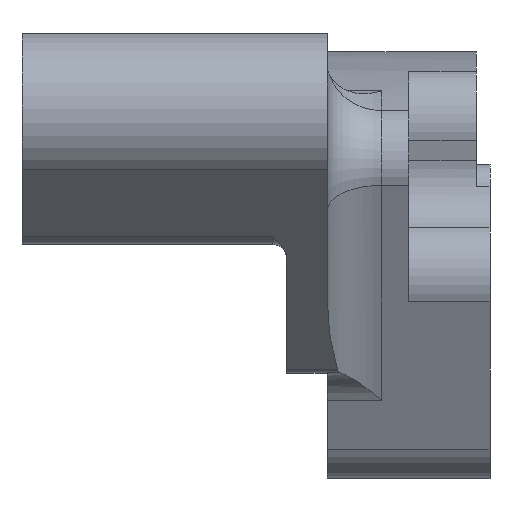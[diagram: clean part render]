
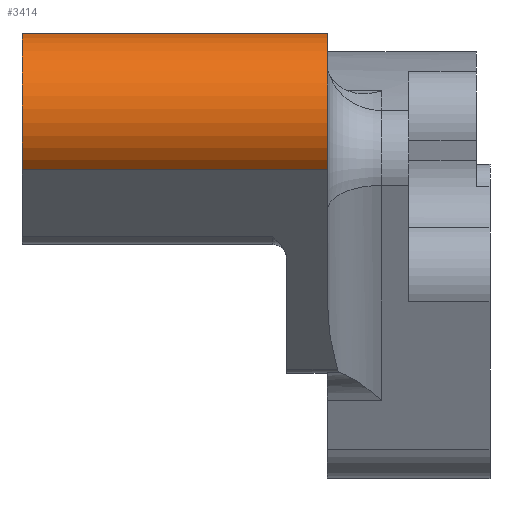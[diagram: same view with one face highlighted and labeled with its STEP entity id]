
A CAD part, front view. The second image highlights one B-rep face of the part: STEP entity #3414.
In plain terms, the highlighted cylindrical face has radius 5.873 mm (diameter 11.746 mm), a partial arc.
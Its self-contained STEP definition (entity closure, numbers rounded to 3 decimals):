
#587=CARTESIAN_POINT('',(116.5,-24.896,400.7));
#589=CARTESIAN_POINT('',(116.5,-29.,396.5));
#590=DIRECTION('',(-1.,0.,0.));
#591=DIRECTION('',(0.,0.699,0.715));
#592=AXIS2_PLACEMENT_3D('',#589,#590,#591);
#599=DIRECTION('',(-1.,0.,0.));
#600=VECTOR('',#599,3.);
#601=CARTESIAN_POINT('',(120.5,-26.905,401.986));
#602=LINE('',#601,#600);
#603=DIRECTION('',(-1.,0.,0.));
#604=VECTOR('',#603,1.);
#605=CARTESIAN_POINT('',(117.5,-24.896,400.7));
#606=LINE('',#605,#604);
#615=CARTESIAN_POINT('',(120.5,-29.,396.5));
#616=DIRECTION('',(-1.,0.,0.));
#617=DIRECTION('',(0.,-0.699,-0.715));
#618=AXIS2_PLACEMENT_3D('',#615,#616,#617);
#620=CARTESIAN_POINT('',(120.5,-29.,396.5));
#621=DIRECTION('',(-1.,0.,0.));
#622=DIRECTION('',(0.,0.,1.));
#623=AXIS2_PLACEMENT_3D('',#620,#621,#622);
#1360=DIRECTION('',(-1.,0.,0.));
#1361=VECTOR('',#1360,22.5);
#1362=CARTESIAN_POINT('',(120.5,-33.104,392.3));
#1363=LINE('',#1362,#1361);
#1364=DIRECTION('',(1.,0.,0.));
#1365=VECTOR('',#1364,18.5);
#1366=CARTESIAN_POINT('',(98.,-23.203,395.561));
#1367=LINE('',#1366,#1365);
#1368=CARTESIAN_POINT('',(117.5,-29.,396.5));
#1369=DIRECTION('',(-1.,0.,0.));
#1370=DIRECTION('',(0.,0.357,0.934));
#1371=AXIS2_PLACEMENT_3D('',#1368,#1369,#1370);
#1382=CARTESIAN_POINT('',(98.,-29.,396.5));
#1383=DIRECTION('',(1.,0.,0.));
#1384=DIRECTION('',(0.,0.987,-0.16));
#1385=AXIS2_PLACEMENT_3D('',#1382,#1383,#1384);
#1387=CARTESIAN_POINT('',(98.,-29.,396.5));
#1388=DIRECTION('',(1.,0.,0.));
#1389=DIRECTION('',(0.,0.,1.));
#1390=AXIS2_PLACEMENT_3D('',#1387,#1388,#1389);
#1626=CARTESIAN_POINT('',(98.,-33.104,392.3));
#1627=VERTEX_POINT('',#1626);
#1628=CARTESIAN_POINT('',(120.5,-33.104,392.3));
#1629=VERTEX_POINT('',#1628);
#1640=CARTESIAN_POINT('',(116.5,-23.203,395.561));
#1641=VERTEX_POINT('',#1640);
#1642=VERTEX_POINT('',#587);
#1643=CARTESIAN_POINT('',(120.5,-26.905,401.986));
#1645=VERTEX_POINT('',#1643);
#1647=CARTESIAN_POINT('',(117.5,-26.905,401.986));
#1648=VERTEX_POINT('',#1647);
#1649=CARTESIAN_POINT('',(117.5,-24.896,400.7));
#1650=VERTEX_POINT('',#1649);
#1656=CARTESIAN_POINT('',(120.5,-29.,402.373));
#1657=VERTEX_POINT('',#1656);
#1663=CARTESIAN_POINT('',(98.,-23.203,395.561));
#1665=VERTEX_POINT('',#1663);
#1666=CARTESIAN_POINT('',(98.,-29.,402.373));
#1667=VERTEX_POINT('',#1666);
#3393=CARTESIAN_POINT('',(120.5,-29.,396.5));
#3394=DIRECTION('',(-1.,0.,0.));
#3395=DIRECTION('',(0.,0.,1.));
#3396=AXIS2_PLACEMENT_3D('',#3393,#3394,#3395);
#3397=CYLINDRICAL_SURFACE('',#3396,5.873);
#3398=ORIENTED_EDGE('',*,*,#2486,.F.);
#3400=ORIENTED_EDGE('',*,*,#3399,.F.);
#3401=ORIENTED_EDGE('',*,*,#2482,.F.);
#3402=ORIENTED_EDGE('',*,*,#2509,.F.);
#3403=ORIENTED_EDGE('',*,*,#2507,.F.);
#3404=ORIENTED_EDGE('',*,*,#2392,.T.);
#3406=ORIENTED_EDGE('',*,*,#3405,.F.);
#3408=ORIENTED_EDGE('',*,*,#3407,.F.);
#3410=ORIENTED_EDGE('',*,*,#3409,.T.);
#3411=ORIENTED_EDGE('',*,*,#2468,.F.);
#3412=EDGE_LOOP('',(#3398,#3400,#3401,#3402,#3403,#3404,#3406,#3408,#3410,
#3411));
#3413=FACE_OUTER_BOUND('',#3412,.F.);
#3414=ADVANCED_FACE('',(#3413),#3397,.T.);
#593=CIRCLE('',#592,5.873);
#619=CIRCLE('',#618,5.873);
#624=CIRCLE('',#623,5.873);
#1372=CIRCLE('',#1371,5.873);
#1386=CIRCLE('',#1385,5.873);
#1391=CIRCLE('',#1390,5.873);
#2392=EDGE_CURVE('',#1629,#1627,#1363,.T.);
#2468=EDGE_CURVE('',#1642,#1641,#593,.T.);
#2482=EDGE_CURVE('',#1645,#1648,#602,.T.);
#2486=EDGE_CURVE('',#1650,#1642,#606,.T.);
#2507=EDGE_CURVE('',#1629,#1657,#619,.T.);
#2509=EDGE_CURVE('',#1657,#1645,#624,.T.);
#3399=EDGE_CURVE('',#1648,#1650,#1372,.T.);
#3405=EDGE_CURVE('',#1667,#1627,#1391,.T.);
#3407=EDGE_CURVE('',#1665,#1667,#1386,.T.);
#3409=EDGE_CURVE('',#1665,#1641,#1367,.T.);
